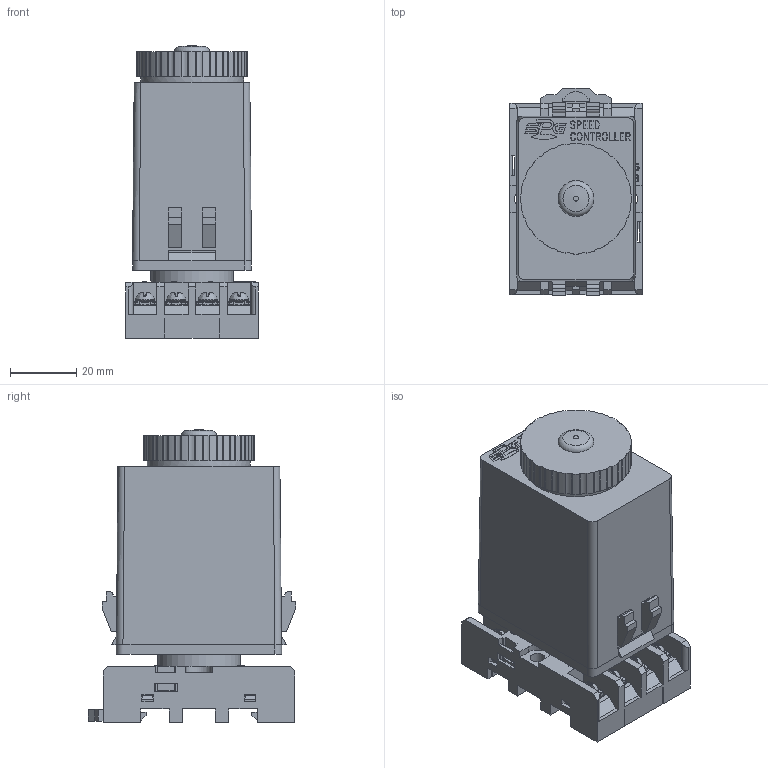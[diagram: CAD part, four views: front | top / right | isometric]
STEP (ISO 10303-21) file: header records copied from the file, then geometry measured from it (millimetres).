
FILE_DESCRIPTION((''),'2;1');
FILE_NAME('D:\yang\Yang cw\SPG 업무\2. DC MOTOR\7. DC MOTOR 브로슈어\SR TYPE\SR TYPE.stp','2015-03-31T11:30:55',('ycw1227'),(''),'Autodesk Inventor 2013','Autodesk Inventor 2013','');
FILE_SCHEMA(('AUTOMOTIVE_DESIGN { 1 0 10303 214 1 1 1 1 }'));
Length unit declared in the file: millimetre
Products named in the file (1): 부품33
Bounding box: 40 x 62.8 x 88.5 mm (x, y, z)
Volume: 54150.4 mm3; surface area: 45030 mm2
Topology: 1 solids, 4 shells, 3122 faces, 8387 edges, 5193 vertices
Faces by surface type: plane 1481, bspline 781, cylinder 625, torus 129, cone 89, sphere 17
Full cylindrical faces by diameter (mm): 2 x1, 3 x16, 3.5 x16, 4 x8, 4.5 x2, 5.8 x8, 8 x1, 11 x1, 14.5 x1, 22 x1, 25 x1, 31.2 x1
Entity records: 112682 total; most frequent: CARTESIAN_POINT 36730, ORIENTED_EDGE 16246, DIRECTION 13503, EDGE_CURVE 8123, VERTEX_POINT 5140, VECTOR 5007, LINE 5007, AXIS2_PLACEMENT_3D 4248
